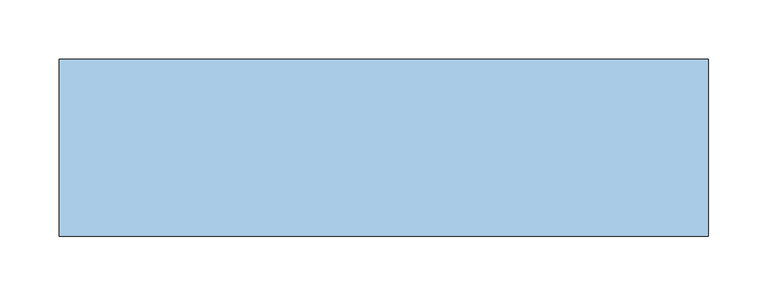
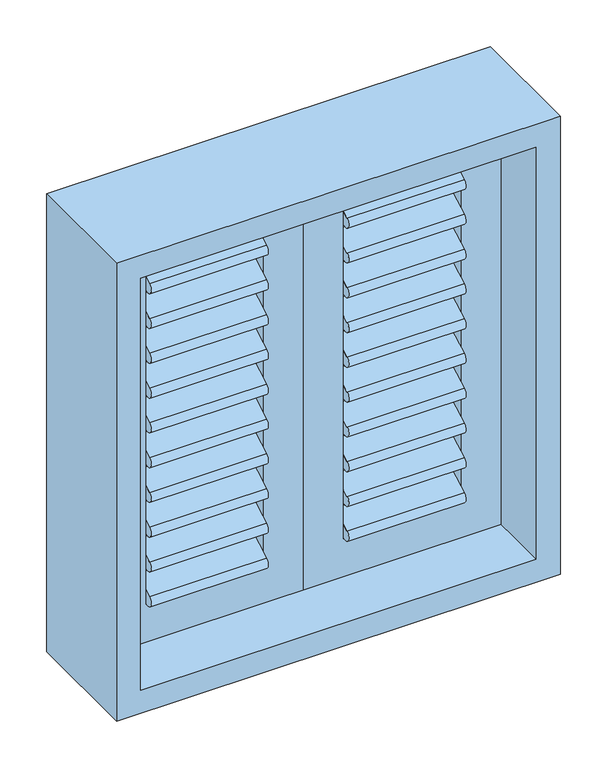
"""IFC4 building model written with IfcOpenShell, lengths in millimetres: window geometry, Janela Abrir Veneziana-2 folhas-FLA : 55x60 h=1.30."""

from ifc_helpers import new_model, si_unit, point, frame, frame_2d, origin, place, context, project, spatial, polyline, circle_curve, trimmed, segment, composite_curve, outline, extrude, source, transform, mapped, element, save


def window_d0bb16d3(model_context):
    return source(origin(), model_context, "Body", "SweptSolid", [
        extrude(outline(polyline([(1600.0, -275.0), (1000.0, -275.0), (1000.0, 275.0), (1600.0, 275.0), (1600.0, -275.0)]), holes=[polyline([(1030.0, -245.0), (1570.0, -245.0), (1570.0, 245.0), (1030.0, 245.0), (1030.0, -245.0)])]), frame((0.0, -75.0, 0.0), z_axis=(0.0, 1.0, 0.0), x_axis=(0.0, 0.0, 1.0)), (0.0, 0.0, 1.0), 150.0),
        extrude(outline(composite_curve([segment(trimmed(circle_curve(frame_2d((22.2307621, 1466.9444444)), 7.5), [point((18.4807621, 1473.439635))], [point((25.9807621, 1460.4492539))], False, "CARTESIAN"), True, "CONTINUOUS"), segment(polyline([(25.9807621, 1460.4492539), (0.0, 1445.4492539)]), True, "CONTINUOUS"), segment(trimmed(circle_curve(frame_2d((-3.75, 1451.9444444)), 7.5), [point((0.0, 1445.4492539))], [point((-7.5, 1458.439635))], False, "CARTESIAN"), True, "CONTINUOUS"), segment(polyline([(-7.5, 1458.439635), (18.4807621, 1473.439635)]), True, "CONTINUOUS")], self_intersect=False)), frame((-195.0, 0.0, 0.0), z_axis=(1.0, 0.0, 0.0), x_axis=(0.0, 1.0, 0.0)), (0.0, 0.0, 1.0), 145.0),
        extrude(outline(composite_curve([segment(trimmed(circle_curve(frame_2d((22.2307621, 1466.9444444)), 7.5), [point((18.4807621, 1473.439635))], [point((25.9807621, 1460.4492539))], False, "CARTESIAN"), True, "CONTINUOUS"), segment(polyline([(25.9807621, 1460.4492539), (0.0, 1445.4492539)]), True, "CONTINUOUS"), segment(trimmed(circle_curve(frame_2d((-3.75, 1451.9444444)), 7.5), [point((0.0, 1445.4492539))], [point((-7.5, 1458.439635))], False, "CARTESIAN"), True, "CONTINUOUS"), segment(polyline([(-7.5, 1458.439635), (18.4807621, 1473.439635)]), True, "CONTINUOUS")], self_intersect=False)), frame((50.0, 0.0, 0.0), z_axis=(1.0, 0.0, 0.0), x_axis=(0.0, 1.0, 0.0)), (0.0, 0.0, 1.0), 145.0),
        extrude(outline(composite_curve([segment(trimmed(circle_curve(frame_2d((22.2307621, 1421.3888889)), 7.5), [point((18.4807621, 1427.8840794))], [point((25.9807621, 1414.8936984))], False, "CARTESIAN"), True, "CONTINUOUS"), segment(polyline([(25.9807621, 1414.8936984), (0.0, 1399.8936984)]), True, "CONTINUOUS"), segment(trimmed(circle_curve(frame_2d((-3.75, 1406.3888889)), 7.5), [point((0.0, 1399.8936984))], [point((-7.5, 1412.8840794))], False, "CARTESIAN"), True, "CONTINUOUS"), segment(polyline([(-7.5, 1412.8840794), (18.4807621, 1427.8840794)]), True, "CONTINUOUS")], self_intersect=False)), frame((-195.0, 0.0, 0.0), z_axis=(1.0, 0.0, 0.0), x_axis=(0.0, 1.0, 0.0)), (0.0, 0.0, 1.0), 145.0),
        extrude(outline(composite_curve([segment(trimmed(circle_curve(frame_2d((22.2307621, 1375.8333333)), 7.5), [point((18.4807621, 1382.3285239))], [point((25.9807621, 1369.3381428))], False, "CARTESIAN"), True, "CONTINUOUS"), segment(polyline([(25.9807621, 1369.3381428), (0.0, 1354.3381428)]), True, "CONTINUOUS"), segment(trimmed(circle_curve(frame_2d((-3.75, 1360.8333333)), 7.5), [point((0.0, 1354.3381428))], [point((-7.5, 1367.3285239))], False, "CARTESIAN"), True, "CONTINUOUS"), segment(polyline([(-7.5, 1367.3285239), (18.4807621, 1382.3285239)]), True, "CONTINUOUS")], self_intersect=False)), frame((-195.0, 0.0, 0.0), z_axis=(1.0, 0.0, 0.0), x_axis=(0.0, 1.0, 0.0)), (0.0, 0.0, 1.0), 145.0),
        extrude(outline(composite_curve([segment(trimmed(circle_curve(frame_2d((22.2307621, 1330.2777778)), 7.5), [point((18.4807621, 1336.7729683))], [point((25.9807621, 1323.7825872))], False, "CARTESIAN"), True, "CONTINUOUS"), segment(polyline([(25.9807621, 1323.7825872), (0.0, 1308.7825872)]), True, "CONTINUOUS"), segment(trimmed(circle_curve(frame_2d((-3.75, 1315.2777778)), 7.5), [point((0.0, 1308.7825872))], [point((-7.5, 1321.7729683))], False, "CARTESIAN"), True, "CONTINUOUS"), segment(polyline([(-7.5, 1321.7729683), (18.4807621, 1336.7729683)]), True, "CONTINUOUS")], self_intersect=False)), frame((-195.0, 0.0, 0.0), z_axis=(1.0, 0.0, 0.0), x_axis=(0.0, 1.0, 0.0)), (0.0, 0.0, 1.0), 145.0),
        extrude(outline(composite_curve([segment(trimmed(circle_curve(frame_2d((22.2307621, 1284.7222222)), 7.5), [point((18.4807621, 1291.2174128))], [point((25.9807621, 1278.2270317))], False, "CARTESIAN"), True, "CONTINUOUS"), segment(polyline([(25.9807621, 1278.2270317), (0.0, 1263.2270317)]), True, "CONTINUOUS"), segment(trimmed(circle_curve(frame_2d((-3.75, 1269.7222222)), 7.5), [point((0.0, 1263.2270317))], [point((-7.5, 1276.2174128))], False, "CARTESIAN"), True, "CONTINUOUS"), segment(polyline([(-7.5, 1276.2174128), (18.4807621, 1291.2174128)]), True, "CONTINUOUS")], self_intersect=False)), frame((-195.0, 0.0, 0.0), z_axis=(1.0, 0.0, 0.0), x_axis=(0.0, 1.0, 0.0)), (0.0, 0.0, 1.0), 145.0),
        extrude(outline(composite_curve([segment(trimmed(circle_curve(frame_2d((22.2307621, 1239.1666667)), 7.5), [point((18.4807621, 1245.6618572))], [point((25.9807621, 1232.6714761))], False, "CARTESIAN"), True, "CONTINUOUS"), segment(polyline([(25.9807621, 1232.6714761), (0.0, 1217.6714761)]), True, "CONTINUOUS"), segment(trimmed(circle_curve(frame_2d((-3.75, 1224.1666667)), 7.5), [point((0.0, 1217.6714761))], [point((-7.5, 1230.6618572))], False, "CARTESIAN"), True, "CONTINUOUS"), segment(polyline([(-7.5, 1230.6618572), (18.4807621, 1245.6618572)]), True, "CONTINUOUS")], self_intersect=False)), frame((-195.0, 0.0, 0.0), z_axis=(1.0, 0.0, 0.0), x_axis=(0.0, 1.0, 0.0)), (0.0, 0.0, 1.0), 145.0),
        extrude(outline(composite_curve([segment(trimmed(circle_curve(frame_2d((22.2307621, 1193.6111111)), 7.5), [point((18.4807621, 1200.1063016))], [point((25.9807621, 1187.1159206))], False, "CARTESIAN"), True, "CONTINUOUS"), segment(polyline([(25.9807621, 1187.1159206), (0.0, 1172.1159206)]), True, "CONTINUOUS"), segment(trimmed(circle_curve(frame_2d((-3.75, 1178.6111111)), 7.5), [point((0.0, 1172.1159206))], [point((-7.5, 1185.1063016))], False, "CARTESIAN"), True, "CONTINUOUS"), segment(polyline([(-7.5, 1185.1063016), (18.4807621, 1200.1063016)]), True, "CONTINUOUS")], self_intersect=False)), frame((-195.0, 0.0, 0.0), z_axis=(1.0, 0.0, 0.0), x_axis=(0.0, 1.0, 0.0)), (0.0, 0.0, 1.0), 145.0),
        extrude(outline(composite_curve([segment(trimmed(circle_curve(frame_2d((22.2307621, 1421.3888889)), 7.5), [point((18.4807621, 1427.8840794))], [point((25.9807621, 1414.8936984))], False, "CARTESIAN"), True, "CONTINUOUS"), segment(polyline([(25.9807621, 1414.8936984), (0.0, 1399.8936984)]), True, "CONTINUOUS"), segment(trimmed(circle_curve(frame_2d((-3.75, 1406.3888889)), 7.5), [point((0.0, 1399.8936984))], [point((-7.5, 1412.8840794))], False, "CARTESIAN"), True, "CONTINUOUS"), segment(polyline([(-7.5, 1412.8840794), (18.4807621, 1427.8840794)]), True, "CONTINUOUS")], self_intersect=False)), frame((50.0, 0.0, 0.0), z_axis=(1.0, 0.0, 0.0), x_axis=(0.0, 1.0, 0.0)), (0.0, 0.0, 1.0), 145.0),
        extrude(outline(composite_curve([segment(trimmed(circle_curve(frame_2d((22.2307621, 1375.8333333)), 7.5), [point((18.4807621, 1382.3285239))], [point((25.9807621, 1369.3381428))], False, "CARTESIAN"), True, "CONTINUOUS"), segment(polyline([(25.9807621, 1369.3381428), (0.0, 1354.3381428)]), True, "CONTINUOUS"), segment(trimmed(circle_curve(frame_2d((-3.75, 1360.8333333)), 7.5), [point((0.0, 1354.3381428))], [point((-7.5, 1367.3285239))], False, "CARTESIAN"), True, "CONTINUOUS"), segment(polyline([(-7.5, 1367.3285239), (18.4807621, 1382.3285239)]), True, "CONTINUOUS")], self_intersect=False)), frame((50.0, 0.0, 0.0), z_axis=(1.0, 0.0, 0.0), x_axis=(0.0, 1.0, 0.0)), (0.0, 0.0, 1.0), 145.0),
        extrude(outline(composite_curve([segment(trimmed(circle_curve(frame_2d((22.2307621, 1330.2777778)), 7.5), [point((18.4807621, 1336.7729683))], [point((25.9807621, 1323.7825872))], False, "CARTESIAN"), True, "CONTINUOUS"), segment(polyline([(25.9807621, 1323.7825872), (0.0, 1308.7825872)]), True, "CONTINUOUS"), segment(trimmed(circle_curve(frame_2d((-3.75, 1315.2777778)), 7.5), [point((0.0, 1308.7825872))], [point((-7.5, 1321.7729683))], False, "CARTESIAN"), True, "CONTINUOUS"), segment(polyline([(-7.5, 1321.7729683), (18.4807621, 1336.7729683)]), True, "CONTINUOUS")], self_intersect=False)), frame((50.0, 0.0, 0.0), z_axis=(1.0, 0.0, 0.0), x_axis=(0.0, 1.0, 0.0)), (0.0, 0.0, 1.0), 145.0),
        extrude(outline(composite_curve([segment(trimmed(circle_curve(frame_2d((22.2307621, 1284.7222222)), 7.5), [point((18.4807621, 1291.2174128))], [point((25.9807621, 1278.2270317))], False, "CARTESIAN"), True, "CONTINUOUS"), segment(polyline([(25.9807621, 1278.2270317), (0.0, 1263.2270317)]), True, "CONTINUOUS"), segment(trimmed(circle_curve(frame_2d((-3.75, 1269.7222222)), 7.5), [point((0.0, 1263.2270317))], [point((-7.5, 1276.2174128))], False, "CARTESIAN"), True, "CONTINUOUS"), segment(polyline([(-7.5, 1276.2174128), (18.4807621, 1291.2174128)]), True, "CONTINUOUS")], self_intersect=False)), frame((50.0, 0.0, 0.0), z_axis=(1.0, 0.0, 0.0), x_axis=(0.0, 1.0, 0.0)), (0.0, 0.0, 1.0), 145.0),
        extrude(outline(composite_curve([segment(trimmed(circle_curve(frame_2d((22.2307621, 1239.1666667)), 7.5), [point((18.4807621, 1245.6618572))], [point((25.9807621, 1232.6714761))], False, "CARTESIAN"), True, "CONTINUOUS"), segment(polyline([(25.9807621, 1232.6714761), (0.0, 1217.6714761)]), True, "CONTINUOUS"), segment(trimmed(circle_curve(frame_2d((-3.75, 1224.1666667)), 7.5), [point((0.0, 1217.6714761))], [point((-7.5, 1230.6618572))], False, "CARTESIAN"), True, "CONTINUOUS"), segment(polyline([(-7.5, 1230.6618572), (18.4807621, 1245.6618572)]), True, "CONTINUOUS")], self_intersect=False)), frame((50.0, 0.0, 0.0), z_axis=(1.0, 0.0, 0.0), x_axis=(0.0, 1.0, 0.0)), (0.0, 0.0, 1.0), 145.0),
        extrude(outline(composite_curve([segment(trimmed(circle_curve(frame_2d((22.2307621, 1193.6111111)), 7.5), [point((18.4807621, 1200.1063016))], [point((25.9807621, 1187.1159206))], False, "CARTESIAN"), True, "CONTINUOUS"), segment(polyline([(25.9807621, 1187.1159206), (0.0, 1172.1159206)]), True, "CONTINUOUS"), segment(trimmed(circle_curve(frame_2d((-3.75, 1178.6111111)), 7.5), [point((0.0, 1172.1159206))], [point((-7.5, 1185.1063016))], False, "CARTESIAN"), True, "CONTINUOUS"), segment(polyline([(-7.5, 1185.1063016), (18.4807621, 1200.1063016)]), True, "CONTINUOUS")], self_intersect=False)), frame((50.0, 0.0, 0.0), z_axis=(1.0, 0.0, 0.0), x_axis=(0.0, 1.0, 0.0)), (0.0, 0.0, 1.0), 145.0),
        extrude(outline(composite_curve([segment(trimmed(circle_curve(frame_2d((22.2307621, 1148.0555556)), 7.5), [point((18.4807621, 1154.5507461))], [point((25.9807621, 1141.560365))], False, "CARTESIAN"), True, "CONTINUOUS"), segment(polyline([(25.9807621, 1141.560365), (0.0, 1126.560365)]), True, "CONTINUOUS"), segment(trimmed(circle_curve(frame_2d((-3.75, 1133.0555556)), 7.5), [point((0.0, 1126.560365))], [point((-7.5, 1139.5507461))], False, "CARTESIAN"), True, "CONTINUOUS"), segment(polyline([(-7.5, 1139.5507461), (18.4807621, 1154.5507461)]), True, "CONTINUOUS")], self_intersect=False)), frame((-195.0, 0.0, 0.0), z_axis=(1.0, 0.0, 0.0), x_axis=(0.0, 1.0, 0.0)), (0.0, 0.0, 1.0), 145.0),
        extrude(outline(composite_curve([segment(trimmed(circle_curve(frame_2d((22.2307621, 1512.5)), 7.5), [point((18.4807621, 1518.9951905))], [point((25.9807621, 1506.0048095))], False, "CARTESIAN"), True, "CONTINUOUS"), segment(polyline([(25.9807621, 1506.0048095), (0.0, 1491.0048095)]), True, "CONTINUOUS"), segment(trimmed(circle_curve(frame_2d((-3.75, 1497.5)), 7.5), [point((0.0, 1491.0048095))], [point((-7.5, 1503.9951905))], False, "CARTESIAN"), True, "CONTINUOUS"), segment(polyline([(-7.5, 1503.9951905), (18.4807621, 1518.9951905)]), True, "CONTINUOUS")], self_intersect=False)), frame((-195.0, 0.0, 0.0), z_axis=(1.0, 0.0, 0.0), x_axis=(0.0, 1.0, 0.0)), (0.0, 0.0, 1.0), 145.0),
        extrude(outline(composite_curve([segment(trimmed(circle_curve(frame_2d((22.2307621, 1148.0555556)), 7.5), [point((18.4807621, 1154.5507461))], [point((25.9807621, 1141.560365))], False, "CARTESIAN"), True, "CONTINUOUS"), segment(polyline([(25.9807621, 1141.560365), (0.0, 1126.560365)]), True, "CONTINUOUS"), segment(trimmed(circle_curve(frame_2d((-3.75, 1133.0555556)), 7.5), [point((0.0, 1126.560365))], [point((-7.5, 1139.5507461))], False, "CARTESIAN"), True, "CONTINUOUS"), segment(polyline([(-7.5, 1139.5507461), (18.4807621, 1154.5507461)]), True, "CONTINUOUS")], self_intersect=False)), frame((50.0, 0.0, 0.0), z_axis=(1.0, 0.0, 0.0), x_axis=(0.0, 1.0, 0.0)), (0.0, 0.0, 1.0), 145.0),
        extrude(outline(composite_curve([segment(trimmed(circle_curve(frame_2d((22.2307621, 1512.5)), 7.5), [point((18.4807621, 1518.9951905))], [point((25.9807621, 1506.0048095))], False, "CARTESIAN"), True, "CONTINUOUS"), segment(polyline([(25.9807621, 1506.0048095), (0.0, 1491.0048095)]), True, "CONTINUOUS"), segment(trimmed(circle_curve(frame_2d((-3.75, 1497.5)), 7.5), [point((0.0, 1491.0048095))], [point((-7.5, 1503.9951905))], False, "CARTESIAN"), True, "CONTINUOUS"), segment(polyline([(-7.5, 1503.9951905), (18.4807621, 1518.9951905)]), True, "CONTINUOUS")], self_intersect=False)), frame((50.0, 0.0, 0.0), z_axis=(1.0, 0.0, 0.0), x_axis=(0.0, 1.0, 0.0)), (0.0, 0.0, 1.0), 145.0),
        extrude(outline(composite_curve([segment(trimmed(circle_curve(frame_2d((22.2307621, 1102.5)), 7.5), [point((18.4807621, 1108.9951905))], [point((25.9807621, 1096.0048095))], False, "CARTESIAN"), True, "CONTINUOUS"), segment(polyline([(25.9807621, 1096.0048095), (0.0, 1081.0048095)]), True, "CONTINUOUS"), segment(trimmed(circle_curve(frame_2d((-3.75, 1087.5)), 7.5), [point((0.0, 1081.0048095))], [point((-7.5, 1093.9951905))], False, "CARTESIAN"), True, "CONTINUOUS"), segment(polyline([(-7.5, 1093.9951905), (18.4807621, 1108.9951905)]), True, "CONTINUOUS")], self_intersect=False)), frame((50.0, 0.0, 0.0), z_axis=(1.0, 0.0, 0.0), x_axis=(0.0, 1.0, 0.0)), (0.0, 0.0, 1.0), 145.0),
        extrude(outline(composite_curve([segment(trimmed(circle_curve(frame_2d((22.2307621, 1102.5)), 7.5), [point((18.4807621, 1108.9951905))], [point((25.9807621, 1096.0048095))], False, "CARTESIAN"), True, "CONTINUOUS"), segment(polyline([(25.9807621, 1096.0048095), (0.0, 1081.0048095)]), True, "CONTINUOUS"), segment(trimmed(circle_curve(frame_2d((-3.75, 1087.5)), 7.5), [point((0.0, 1081.0048095))], [point((-7.5, 1093.9951905))], False, "CARTESIAN"), True, "CONTINUOUS"), segment(polyline([(-7.5, 1093.9951905), (18.4807621, 1108.9951905)]), True, "CONTINUOUS")], self_intersect=False)), frame((-195.0, 0.0, 0.0), z_axis=(1.0, 0.0, 0.0), x_axis=(0.0, 1.0, 0.0)), (0.0, 0.0, 1.0), 145.0),
        extrude(outline(polyline([(1570.0, 0.0), (1030.0, 0.0), (1030.0, 245.0), (1570.0, 245.0), (1570.0, 0.0)]), holes=[polyline([(1520.0, 50.0), (1520.0, 195.0), (1080.0, 195.0), (1080.0, 50.0), (1520.0, 50.0)])]), frame((0.0, 0.0, 0.0), z_axis=(0.0, 1.0, 0.0), x_axis=(0.0, 0.0, 1.0)), (0.0, 0.0, 1.0), 30.0),
        extrude(outline(polyline([(1570.0, -245.0), (1030.0, -245.0), (1030.0, 0.0), (1570.0, 0.0), (1570.0, -245.0)]), holes=[polyline([(1520.0, -195.0), (1520.0, -50.0), (1080.0, -50.0), (1080.0, -195.0), (1520.0, -195.0)])]), frame((0.0, 0.0, 0.0), z_axis=(0.0, 1.0, 0.0), x_axis=(0.0, 0.0, 1.0)), (0.0, 0.0, 1.0), 30.0),
    ])


if __name__ == "__main__":
    model = new_model("IFC4")
    model_context = context("Model", 3, world=origin())
    ifc_project = project(units=[si_unit("LENGTHUNIT", "METRE", prefix="MILLI")], contexts=[model_context])
    site = spatial("IfcSite", under=ifc_project)
    building = spatial("IfcBuilding", under=site)
    placement = place(None, origin())
    window_shape = window_d0bb16d3(model_context)
    element("IfcWindow", 1, ObjectType="Janela Abrir Veneziana-2 folhas-FLA : 55x60 h=1.30", at=placement, inside=building, context=model_context, shape_type="MappedRepresentation", body=[
        mapped(window_shape, transform((0.0, 0.0, 0.0), x_axis=(1.0, 0.0, 0.0), y_axis=(0.0, 1.0, 0.0), z_axis=(0.0, 0.0, 1.0))),
    ])
    save(model, "model.ifc")
